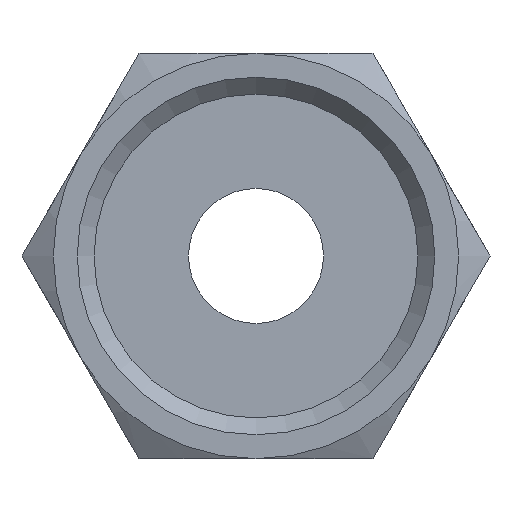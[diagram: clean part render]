
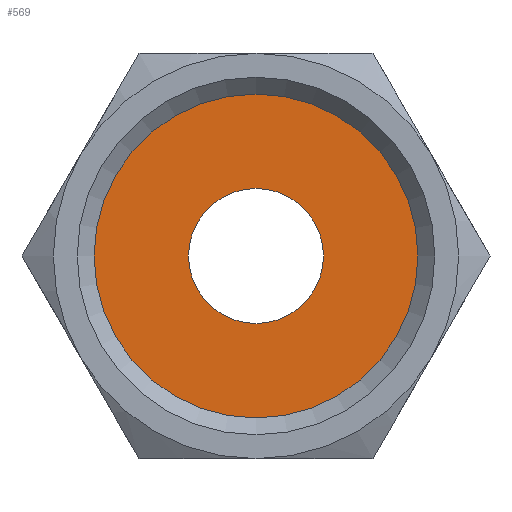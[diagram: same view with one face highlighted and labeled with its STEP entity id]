
A CAD part, front view. The second image highlights one B-rep face of the part: STEP entity #569.
In plain terms, the highlighted planar face has unit normal (0, -1, 0).
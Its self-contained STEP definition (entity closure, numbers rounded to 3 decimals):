
#43=FACE_BOUND('',#134,.T.);
#56=PLANE('',#659);
#95=FACE_OUTER_BOUND('',#133,.T.);
#133=EDGE_LOOP('',(#493,#494));
#134=EDGE_LOOP('',(#495,#496));
#190=CIRCLE('',#618,9.586);
#191=CIRCLE('',#619,9.586);
#209=CIRCLE('',#660,4.);
#210=CIRCLE('',#661,4.);
#235=VERTEX_POINT('',#895);
#236=VERTEX_POINT('',#897);
#265=VERTEX_POINT('',#1048);
#266=VERTEX_POINT('',#1049);
#295=EDGE_CURVE('',#236,#235,#190,.T.);
#296=EDGE_CURVE('',#235,#236,#191,.T.);
#346=EDGE_CURVE('',#265,#266,#209,.T.);
#347=EDGE_CURVE('',#266,#265,#210,.T.);
#493=ORIENTED_EDGE('',*,*,#295,.T.);
#494=ORIENTED_EDGE('',*,*,#296,.T.);
#495=ORIENTED_EDGE('',*,*,#346,.F.);
#496=ORIENTED_EDGE('',*,*,#347,.F.);
#569=ADVANCED_FACE('',(#95,#43),#56,.T.);
#618=AXIS2_PLACEMENT_3D('',#898,#726,#727);
#619=AXIS2_PLACEMENT_3D('',#899,#728,#729);
#659=AXIS2_PLACEMENT_3D('',#1047,#816,#817);
#660=AXIS2_PLACEMENT_3D('',#1050,#818,#819);
#661=AXIS2_PLACEMENT_3D('',#1051,#820,#821);
#726=DIRECTION('center_axis',(0.,-1.,0.));
#727=DIRECTION('ref_axis',(1.,0.,0.));
#728=DIRECTION('center_axis',(0.,-1.,0.));
#729=DIRECTION('ref_axis',(1.,0.,0.));
#816=DIRECTION('center_axis',(0.,-1.,0.));
#817=DIRECTION('ref_axis',(0.,0.,-1.));
#818=DIRECTION('center_axis',(0.,-1.,0.));
#819=DIRECTION('ref_axis',(1.,0.,0.));
#820=DIRECTION('center_axis',(0.,-1.,0.));
#821=DIRECTION('ref_axis',(1.,0.,0.));
#895=CARTESIAN_POINT('',(-9.586,14.,0.));
#897=CARTESIAN_POINT('',(9.586,14.,0.));
#898=CARTESIAN_POINT('Origin',(0.,14.,0.));
#899=CARTESIAN_POINT('Origin',(0.,14.,0.));
#1047=CARTESIAN_POINT('Origin',(4.,14.,0.));
#1048=CARTESIAN_POINT('',(4.,14.,0.));
#1049=CARTESIAN_POINT('',(-4.,14.,0.));
#1050=CARTESIAN_POINT('Origin',(0.,14.,0.));
#1051=CARTESIAN_POINT('Origin',(0.,14.,0.));
